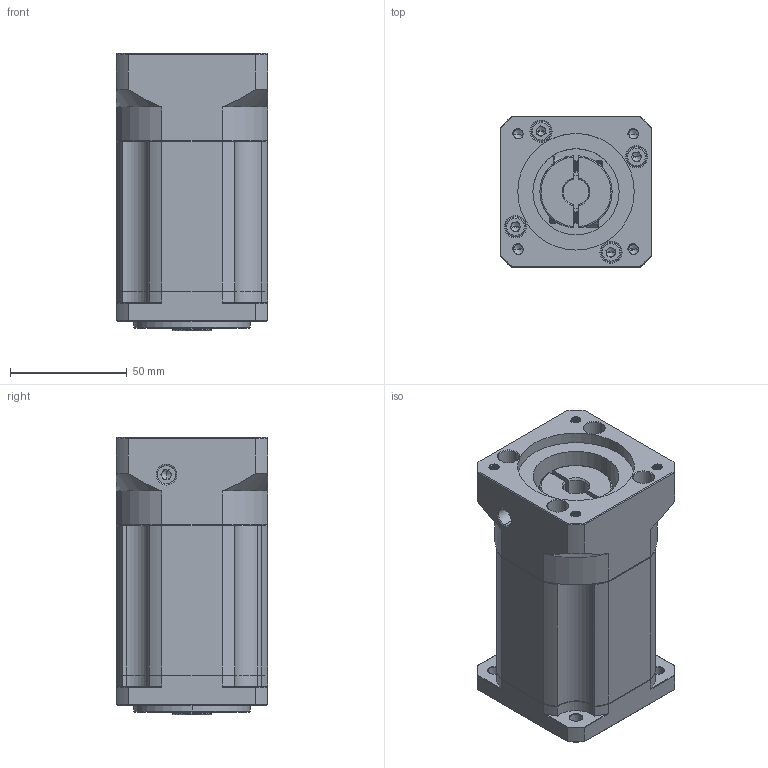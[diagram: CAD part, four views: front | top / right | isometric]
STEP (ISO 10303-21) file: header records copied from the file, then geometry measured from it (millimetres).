
FILE_DESCRIPTION (( 'STEP AP214' ), '1' );
FILE_NAME ('ZB060-K10-L3-P2-11-50-70-M5.step', '2023-08-16T07:12:32', ( '' ), ( '' ), 'SwSTEP 2.0', 'SolidWorks 2016', '' );
FILE_SCHEMA (( 'AUTOMOTIVE_DESIGN' ));
Length unit declared in the file: millimetre
Products named in the file (1): ZB060-K10-L3-P2-11-50-70-M5
Bounding box: 65 x 65 x 119 mm (x, y, z)
Volume: 383002.3 mm3; surface area: 61853.3 mm2
Topology: 6 solids, 6 shells, 2111 faces, 5678 edges, 3658 vertices
Faces by surface type: plane 1056, bspline 390, cylinder 354, cone 277, torus 34
Entity records: 111778 total; most frequent: CARTESIAN_POINT 38456, ORIENTED_EDGE 11300, DIRECTION 8986, EDGE_CURVE 5650, VERTEX_POINT 3658, VECTOR 3606, LINE 3606, AXIS2_PLACEMENT_3D 2690
